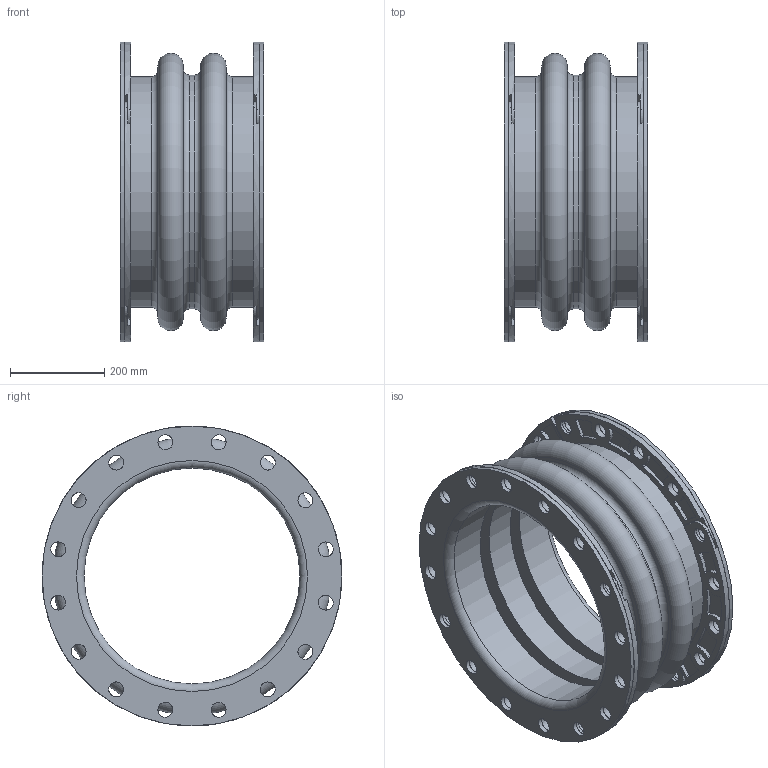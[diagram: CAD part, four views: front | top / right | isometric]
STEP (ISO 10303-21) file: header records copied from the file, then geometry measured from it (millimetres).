
FILE_DESCRIPTION(/* description */ (''),/* implementation_level */ '2;1');
FILE_NAME(/* name */ 'C:\001_Work\Designs\Mercer2014\MQInventor2014\RajR\500 Style\502\STP\502 18IDx12FF.stp',/* time_stamp */ '2016-03-16T15:09:52-04:00',/* author */ ('mquog'),/* organization */ (''),/* preprocessor_version */ 'ST-DEVELOPER v15.2',/* originating_system */ 'Autodesk Inventor 2014',/* authorisation */ '');
FILE_SCHEMA (('AUTOMOTIVE_DESIGN { 1 0 10303 214 3 1 1 }'));
Length unit declared in the file: centimetre
Products named in the file (1): 502 18IDx12FF
Bounding box: 304.8 x 635 x 635 mm (x, y, z)
Volume: 15653167.9 mm3; surface area: 2585310.8 mm2
Topology: 3 solids, 3 shells, 504 faces, 1356 edges, 888 vertices
Faces by surface type: cylinder 368, plane 116, torus 12, cone 8
Full cylindrical faces by diameter (mm): 31.75 x72, 457.2 x3, 488.95 x2, 495.3 x1, 635 x2
Entity records: 16412 total; most frequent: DIRECTION 3058, CARTESIAN_POINT 2633, ORIENTED_EDGE 2496, AXIS2_PLACEMENT_3D 1305, EDGE_CURVE 1248, VERTEX_POINT 880, CIRCLE 800, EDGE_LOOP 768
